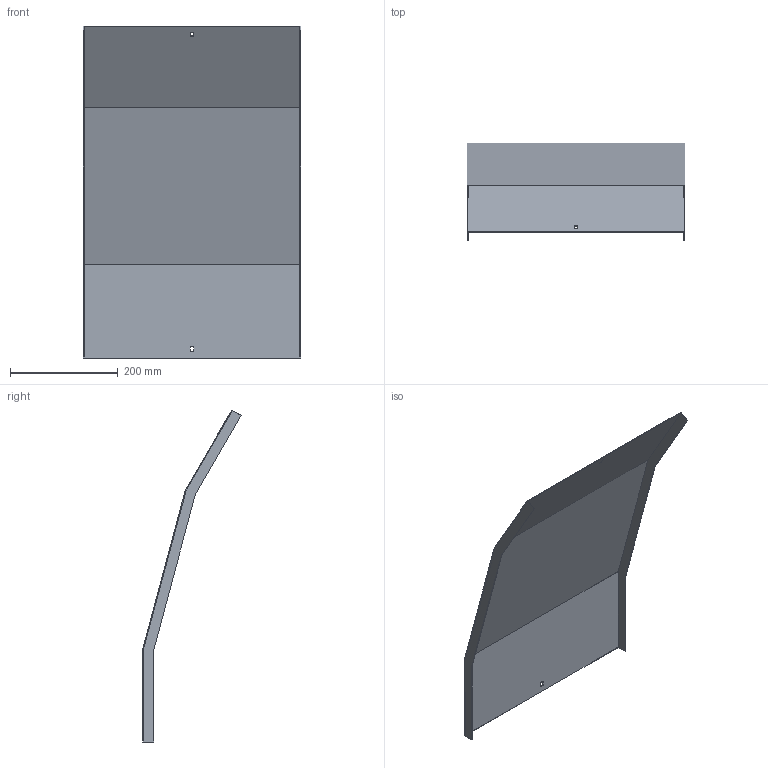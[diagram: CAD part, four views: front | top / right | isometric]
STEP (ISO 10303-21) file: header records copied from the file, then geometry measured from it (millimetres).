
FILE_DESCRIPTION (( 'STEP AP214' ), '1' );
FILE_NAME ('35N5F400.step', '2025-02-21T14:24:15', ( '' ), ( '' ), 'SwSTEP 2.0', 'SolidWorks 2023', '' );
FILE_SCHEMA (( 'AUTOMOTIVE_DESIGN' ));
Length unit declared in the file: millimetre
Products named in the file (1): 35N5F400
Bounding box: 403 x 182.13 x 615.07 mm (x, y, z)
Volume: 427302.8 mm3; surface area: 573065.3 mm2
Topology: 1 solids, 1 shells, 26 faces, 72 edges, 48 vertices
Faces by surface type: plane 26
Entity records: 847 total; most frequent: CARTESIAN_POINT 147, ORIENTED_EDGE 144, DIRECTION 126, VECTOR 72, LINE 72, EDGE_CURVE 72, VERTEX_POINT 48, EDGE_LOOP 30
